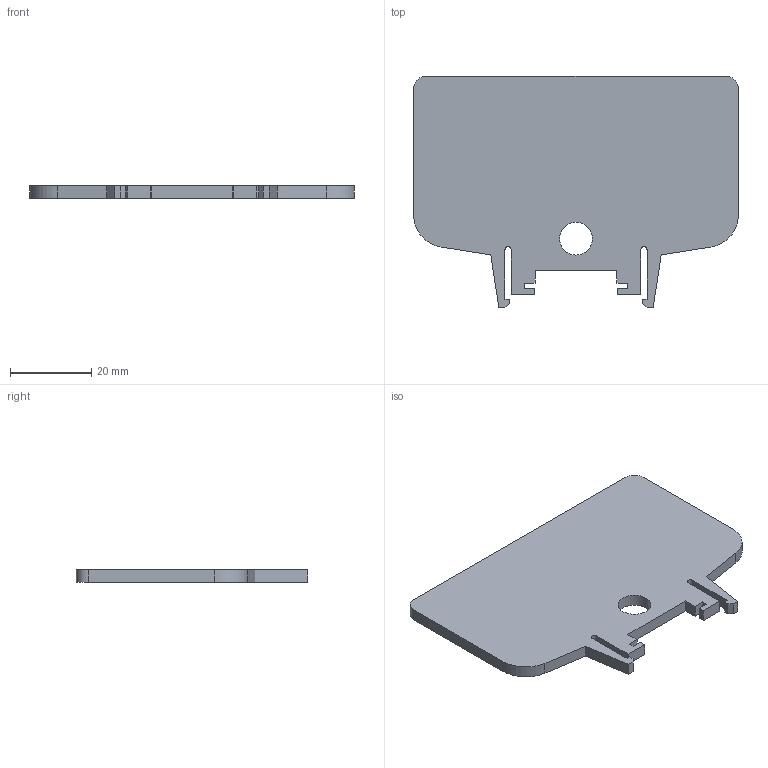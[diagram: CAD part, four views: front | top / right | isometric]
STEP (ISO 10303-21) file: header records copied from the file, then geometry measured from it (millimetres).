
FILE_DESCRIPTION(/* description */ (''),/* implementation_level */ '2;1');
FILE_NAME(/* name */ 'C:\Users\USERCADG105.FUJIDK\Desktop\23224-(TXE-38 Eﾌﾟﾚｰﾄ)HP 3D.stp',/* time_stamp */ '2024-12-02T17:43:58+09:00',/* author */ ('usercadg105'),/* organization */ (''),/* preprocessor_version */ 'ST-DEVELOPER v19',/* originating_system */ 'Autodesk Inventor 2023',/* authorisation */ '');
FILE_SCHEMA (('CONFIG_CONTROL_DESIGN'));
Length unit declared in the file: millimetre
Products named in the file (1): 23224-(TXE-38 Eﾌﾟﾚｰﾄ)HP 3D
Bounding box: 80 x 57 x 3 mm (x, y, z)
Volume: 10909.4 mm3; surface area: 8353.2 mm2
Topology: 1 solids, 1 shells, 41 faces, 117 edges, 78 vertices
Faces by surface type: plane 34, cylinder 7
Full cylindrical faces by diameter (mm): 8.1 x1
Entity records: 1372 total; most frequent: CARTESIAN_POINT 237, ORIENTED_EDGE 234, DIRECTION 215, EDGE_CURVE 117, LINE 103, VECTOR 103, VERTEX_POINT 78, AXIS2_PLACEMENT_3D 56
